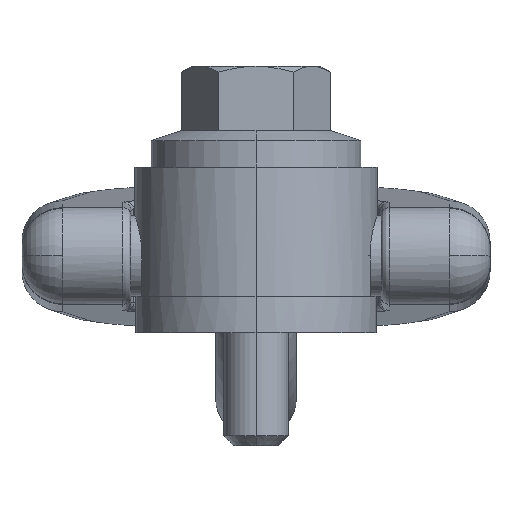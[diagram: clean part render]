
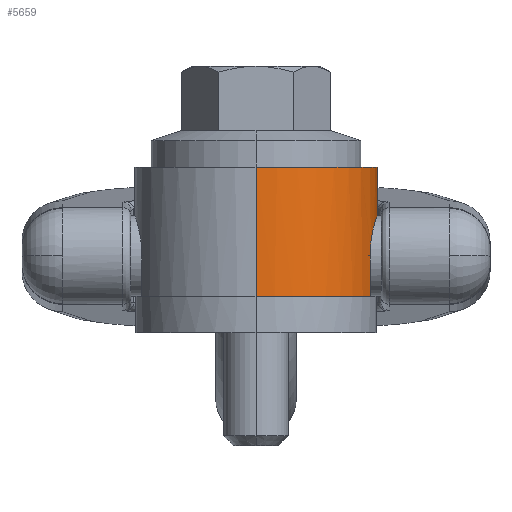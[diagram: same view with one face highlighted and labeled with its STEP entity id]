
A CAD part, top view. The second image highlights one B-rep face of the part: STEP entity #5659.
In plain terms, the highlighted cylindrical face has radius 15 mm (diameter 30 mm), a partial arc.
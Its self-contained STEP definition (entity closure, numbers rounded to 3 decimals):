
#1 = ORIENTED_EDGE ( 'NONE', *, *, #5693, .F. ) ;
#6 = EDGE_CURVE ( 'NONE', #5668, #9, #293, .T. ) ;
#9 = VERTEX_POINT ( 'NONE', #329 ) ;
#12 = ORIENTED_EDGE ( 'NONE', *, *, #13, .T. ) ;
#13 = EDGE_CURVE ( 'NONE', #9, #5621, #327, .T. ) ;
#257 = CARTESIAN_POINT ( 'NONE',  ( 14.142, 9.5, -5. ) ) ;
#258 = CARTESIAN_POINT ( 'NONE',  ( 14.142, 9.833, -5. ) ) ;
#259 = CARTESIAN_POINT ( 'NONE',  ( 14.154, 10.165, -4.967 ) ) ;
#260 = CARTESIAN_POINT ( 'NONE',  ( 14.199, 10.812, -4.836 ) ) ;
#261 = CARTESIAN_POINT ( 'NONE',  ( 14.232, 11.124, -4.74 ) ) ;
#262 = CARTESIAN_POINT ( 'NONE',  ( 14.313, 11.725, -4.489 ) ) ;
#263 = CARTESIAN_POINT ( 'NONE',  ( 14.362, 12.017, -4.332 ) ) ;
#264 = CARTESIAN_POINT ( 'NONE',  ( 14.466, 12.557, -3.97 ) ) ;
#265 = CARTESIAN_POINT ( 'NONE',  ( 14.522, 12.806, -3.765 ) ) ;
#266 = CARTESIAN_POINT ( 'NONE',  ( 14.633, 13.266, -3.305 ) ) ;
#267 = CARTESIAN_POINT ( 'NONE',  ( 14.689, 13.475, -3.05 ) ) ;
#268 = CARTESIAN_POINT ( 'NONE',  ( 14.791, 13.836, -2.511 ) ) ;
#269 = CARTESIAN_POINT ( 'NONE',  ( 14.838, 13.991, -2.222 ) ) ;
#270 = CARTESIAN_POINT ( 'NONE',  ( 14.916, 14.244, -1.614 ) ) ;
#271 = CARTESIAN_POINT ( 'NONE',  ( 14.947, 14.339, -1.301 ) ) ;
#272 = CARTESIAN_POINT ( 'NONE',  ( 14.989, 14.467, -0.657 ) ) ;
#273 = CARTESIAN_POINT ( 'NONE',  ( 15., 14.5, -0.323 ) ) ;
#274 = CARTESIAN_POINT ( 'NONE',  ( 15., 14.5, 0.334 ) ) ;
#275 = CARTESIAN_POINT ( 'NONE',  ( 14.989, 14.467, 0.66 ) ) ;
#276 = CARTESIAN_POINT ( 'NONE',  ( 14.957, 14.37, 1.145 ) ) ;
#277 = CARTESIAN_POINT ( 'NONE',  ( 14.944, 14.329, 1.306 ) ) ;
#278 = CARTESIAN_POINT ( 'NONE',  ( 14.913, 14.233, 1.621 ) ) ;
#279 = CARTESIAN_POINT ( 'NONE',  ( 14.895, 14.177, 1.774 ) ) ;
#280 = CARTESIAN_POINT ( 'NONE',  ( 14.837, 13.99, 2.225 ) ) ;
#281 = CARTESIAN_POINT ( 'NONE',  ( 14.791, 13.836, 2.512 ) ) ;
#282 = CARTESIAN_POINT ( 'NONE',  ( 14.688, 13.47, 3.057 ) ) ;
#283 = CARTESIAN_POINT ( 'NONE',  ( 14.633, 13.264, 3.307 ) ) ;
#284 = CARTESIAN_POINT ( 'NONE',  ( 14.522, 12.806, 3.765 ) ) ;
#285 = CARTESIAN_POINT ( 'NONE',  ( 14.465, 12.552, 3.974 ) ) ;
#286 = CARTESIAN_POINT ( 'NONE',  ( 14.361, 12.01, 4.336 ) ) ;
#287 = CARTESIAN_POINT ( 'NONE',  ( 14.313, 11.724, 4.49 ) ) ;
#288 = CARTESIAN_POINT ( 'NONE',  ( 14.232, 11.12, 4.741 ) ) ;
#289 = CARTESIAN_POINT ( 'NONE',  ( 14.198, 10.802, 4.839 ) ) ;
#290 = CARTESIAN_POINT ( 'NONE',  ( 14.154, 10.16, 4.967 ) ) ;
#291 = CARTESIAN_POINT ( 'NONE',  ( 14.142, 9.833, 5. ) ) ;
#292 = CARTESIAN_POINT ( 'NONE',  ( 14.142, 9.5, 5. ) ) ;
#293 = B_SPLINE_CURVE_WITH_KNOTS ( 'NONE', 3,
 ( #292, #291, #290, #289, #288, #287, #286, #285, #284, #283, #282, #281, #280, #279, #278, #277, #276, #275, #274, #273, #272, #271, #270, #269, #268, #267, #266, #265, #264, #263, #262, #261, #260, #259, #258, #257 ),
 .UNSPECIFIED., .F., .F.,
 ( 4, 2, 2, 2, 2, 2, 2, 2, 2, 2, 2, 2, 2, 2, 2, 2, 2, 4 ),
 ( 0., 0.001, 0.002, 0.003, 0.004, 0.005, 0.006, 0.006, 0.007, 0.008, 0.009, 0.01, 0.011, 0.012, 0.013, 0.014, 0.015, 0.016 ),
 .UNSPECIFIED. ) ;
#324 = DIRECTION ( 'NONE',  ( 0., -1., 0. ) ) ;
#325 = VECTOR ( 'NONE', #324, 1000. ) ;
#326 = CARTESIAN_POINT ( 'NONE',  ( 14.142, 33., -5. ) ) ;
#327 = LINE ( 'NONE', #326, #325 ) ;
#329 = CARTESIAN_POINT ( 'NONE',  ( 14.142, 9.5, -5. ) ) ;
#3870 = CARTESIAN_POINT ( 'NONE',  ( 14.142, 4.5, 5. ) ) ;
#3871 = CARTESIAN_POINT ( 'NONE',  ( 14.142, 4.5, -5. ) ) ;
#3893 = DIRECTION ( 'NONE',  ( 0., 0., -1. ) ) ;
#3894 = DIRECTION ( 'NONE',  ( 0., -1., 0. ) ) ;
#3895 = CARTESIAN_POINT ( 'NONE',  ( 0., 33., 0. ) ) ;
#3896 = AXIS2_PLACEMENT_3D ( 'NONE', #3895, #3894, #3893 ) ;
#3898 = CYLINDRICAL_SURFACE ( 'NONE', #3896, 15. ) ;
#3899 = FACE_OUTER_BOUND ( 'NONE', #5656, .T. ) ;
#3911 = CARTESIAN_POINT ( 'NONE',  ( 0., 20.5, -15. ) ) ;
#3912 = CARTESIAN_POINT ( 'NONE',  ( 0., 20.5, 15. ) ) ;
#3913 = DIRECTION ( 'NONE',  ( 0., -1., 0. ) ) ;
#3914 = VECTOR ( 'NONE', #3913, 1000. ) ;
#3915 = CARTESIAN_POINT ( 'NONE',  ( 0., 33., 15. ) ) ;
#3916 = DIRECTION ( 'NONE',  ( 0., 0., 1. ) ) ;
#3917 = DIRECTION ( 'NONE',  ( 0., 1., 0. ) ) ;
#3918 = CARTESIAN_POINT ( 'NONE',  ( 0., 20.5, 0. ) ) ;
#3919 = AXIS2_PLACEMENT_3D ( 'NONE', #3918, #3917, #3916 ) ;
#3920 = CIRCLE ( 'NONE', #3919, 15. ) ;
#3921 = LINE ( 'NONE', #3915, #3914 ) ;
#3922 = CARTESIAN_POINT ( 'NONE',  ( 0., 4.5, 15. ) ) ;
#3923 = DIRECTION ( 'NONE',  ( 0., 0., -1. ) ) ;
#3924 = DIRECTION ( 'NONE',  ( 0., -1., 0. ) ) ;
#3925 = CARTESIAN_POINT ( 'NONE',  ( 0., 4.5, 0. ) ) ;
#3926 = AXIS2_PLACEMENT_3D ( 'NONE', #3925, #3924, #3923 ) ;
#3927 = CIRCLE ( 'NONE', #3926, 15. ) ;
#3928 = CARTESIAN_POINT ( 'NONE',  ( 14.142, 9.5, 5. ) ) ;
#3929 = DIRECTION ( 'NONE',  ( 0., 1., 0. ) ) ;
#3930 = VECTOR ( 'NONE', #3929, 1000. ) ;
#3931 = CARTESIAN_POINT ( 'NONE',  ( 14.142, 33., 5. ) ) ;
#3932 = LINE ( 'NONE', #3931, #3930 ) ;
#3948 = DIRECTION ( 'NONE',  ( 0., 0., -1. ) ) ;
#3949 = DIRECTION ( 'NONE',  ( 0., -1., 0. ) ) ;
#3950 = CARTESIAN_POINT ( 'NONE',  ( 0., 4.5, 0. ) ) ;
#3951 = AXIS2_PLACEMENT_3D ( 'NONE', #3950, #3949, #3948 ) ;
#3952 = CIRCLE ( 'NONE', #3951, 15. ) ;
#3953 = CARTESIAN_POINT ( 'NONE',  ( 0., 4.5, -15. ) ) ;
#3954 = DIRECTION ( 'NONE',  ( 0., -1., 0. ) ) ;
#3955 = VECTOR ( 'NONE', #3954, 1000. ) ;
#3956 = CARTESIAN_POINT ( 'NONE',  ( 0., 33., -15. ) ) ;
#3957 = LINE ( 'NONE', #3956, #3955 ) ;
#5621 = VERTEX_POINT ( 'NONE', #3871 ) ;
#5623 = VERTEX_POINT ( 'NONE', #3870 ) ;
#5627 = ORIENTED_EDGE ( 'NONE', *, *, #5667, .T. ) ;
#5656 = EDGE_LOOP ( 'NONE', ( #5679, #5684, #5674, #5627, #5669, #12, #1, #5692 ) ) ;
#5659 = ADVANCED_FACE ( 'NONE', ( #3899 ), #3898, .T. ) ;
#5667 = EDGE_CURVE ( 'NONE', #5623, #5668, #3932, .T. ) ;
#5668 = VERTEX_POINT ( 'NONE', #3928 ) ;
#5669 = ORIENTED_EDGE ( 'NONE', *, *, #6, .T. ) ;
#5674 = ORIENTED_EDGE ( 'NONE', *, *, #5675, .F. ) ;
#5675 = EDGE_CURVE ( 'NONE', #5623, #5676, #3927, .T. ) ;
#5676 = VERTEX_POINT ( 'NONE', #3922 ) ;
#5677 = EDGE_CURVE ( 'NONE', #5683, #5685, #3920, .T. ) ;
#5679 = ORIENTED_EDGE ( 'NONE', *, *, #5677, .F. ) ;
#5682 = EDGE_CURVE ( 'NONE', #5683, #5676, #3921, .T. ) ;
#5683 = VERTEX_POINT ( 'NONE', #3912 ) ;
#5684 = ORIENTED_EDGE ( 'NONE', *, *, #5682, .T. ) ;
#5685 = VERTEX_POINT ( 'NONE', #3911 ) ;
#5689 = EDGE_CURVE ( 'NONE', #5685, #5690, #3957, .T. ) ;
#5690 = VERTEX_POINT ( 'NONE', #3953 ) ;
#5692 = ORIENTED_EDGE ( 'NONE', *, *, #5689, .F. ) ;
#5693 = EDGE_CURVE ( 'NONE', #5690, #5621, #3952, .T. ) ;
